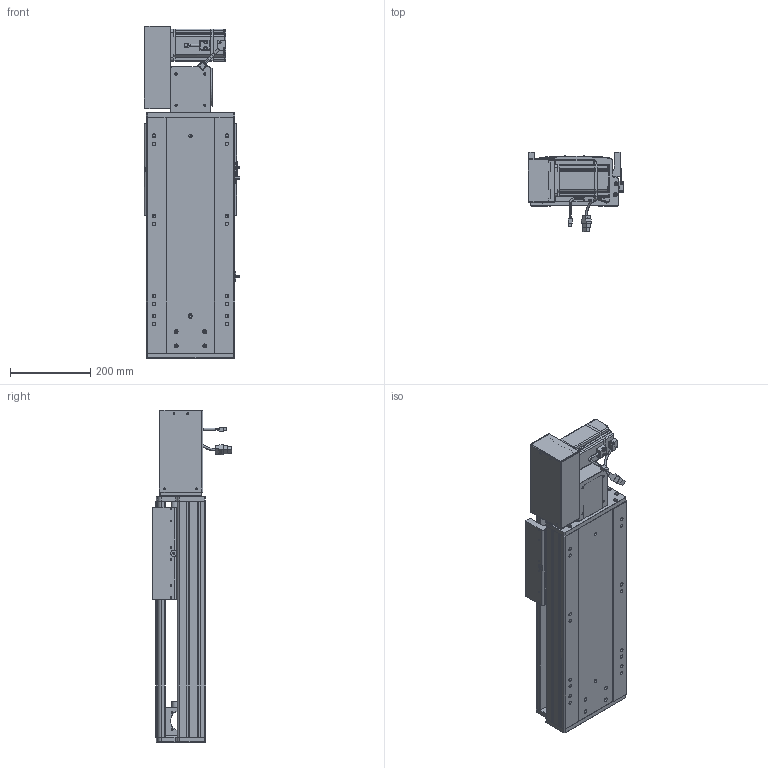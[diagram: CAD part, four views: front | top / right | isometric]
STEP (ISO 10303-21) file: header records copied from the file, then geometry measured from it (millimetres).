
FILE_DESCRIPTION (( 'STEP AP203' ), '1' );
FILE_NAME ('RY220-T-300-LK.SLDASM_250.step', '2022-07-25T08:12:59', ( '' ), ( '' ), 'SwSTEP 2.0', 'SolidWorks 2016', '' );
FILE_SCHEMA (( 'CONFIG_CONTROL_DESIGN' ));
Length unit declared in the file: millimetre
Products named in the file (14): RY220圉猾敕々湍臏賑輸; RY220-T菁釱-300_250; 110A-T-肮祭謫釱傷裔; RY220-同步轮副支撑座6304×2; RY220-T-300-奻裔啣_250; RY220-俋离672覜茼んえ; RY220翋肮祭謫釱; RY220-T-300-LK.SLDASM_250; 滅袉蝶18-15; RY220-T-湍謫欶(鍼踢); RY220翋肮祭謫裔啣; 怢湛750W_ECMA-CX0807ES; RY220-T-蛌殏萇儂假蚾啣(750W); 覜茼ん672
Assembly tree (18 placements, depth 2):
  RY220-T-300-LK.SLDASM_250
    RY220-T菁釱-300_250
    RY220翋肮祭謫釱
    覜茼ん672  x3
    RY220圉猾敕々湍臏賑輸
    RY220-T-300-奻裔啣_250
    RY220-俋离672覜茼んえ
    滅袉蝶18-15  x3
    RY220翋肮祭謫裔啣  x2
    110A-T-肮祭謫釱傷裔
    怢湛750W_ECMA-CX0807ES
    RY220-T-湍謫欶(鍼踢)
    RY220-T-蛌殏萇儂假蚾啣(750W)
    RY220-同步轮副支撑座6304×2
Bounding box: 239.7 x 198.77 x 829 mm (x, y, z)
Volume: 7403471.8 mm3; surface area: 1998790.1 mm2
Topology: 19 solids, 19 shells, 2478 faces, 6831 edges, 4364 vertices
Faces by surface type: cylinder 1130, plane 1069, cone 197, bspline 56, sphere 16, torus 10
Entity records: 82419 total; most frequent: CARTESIAN_POINT 23673, ORIENTED_EDGE 12250, DIRECTION 11440, EDGE_CURVE 6125, AXIS2_PLACEMENT_3D 4000, VERTEX_POINT 3988, LINE 3440, VECTOR 3440
